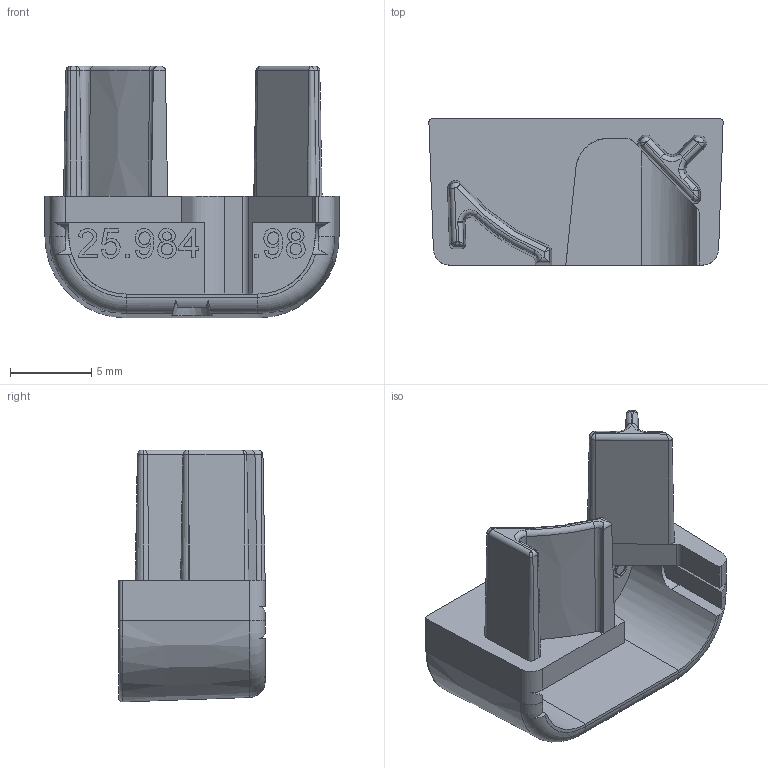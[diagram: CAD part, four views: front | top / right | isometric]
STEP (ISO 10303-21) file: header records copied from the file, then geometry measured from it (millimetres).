
FILE_DESCRIPTION (( 'STEP AP203' ), '1' );
FILE_NAME ('Endkappen_ChannelLine_S_R_24.STEP', '2024-11-29T07:55:40', ( '' ), ( '' ), 'SwSTEP 2.0', 'SolidWorks 2023', '' );
FILE_SCHEMA (( 'CONFIG_CONTROL_DESIGN' ));
Length unit declared in the file: millimetre
Products named in the file (1): Endkappen_ChannelLine_S_R_24
Bounding box: 18.1 x 9 x 15.5 mm (x, y, z)
Volume: 651.1 mm3; surface area: 1151.3 mm2
Topology: 1 solids, 1 shells, 250 faces, 651 edges, 415 vertices
Faces by surface type: plane 102, bspline 80, cylinder 27, cone 22, torus 19
Entity records: 13428 total; most frequent: CARTESIAN_POINT 7777, ORIENTED_EDGE 1294, DIRECTION 917, EDGE_CURVE 647, VERTEX_POINT 415, VECTOR 345, LINE 345, AXIS2_PLACEMENT_3D 286
